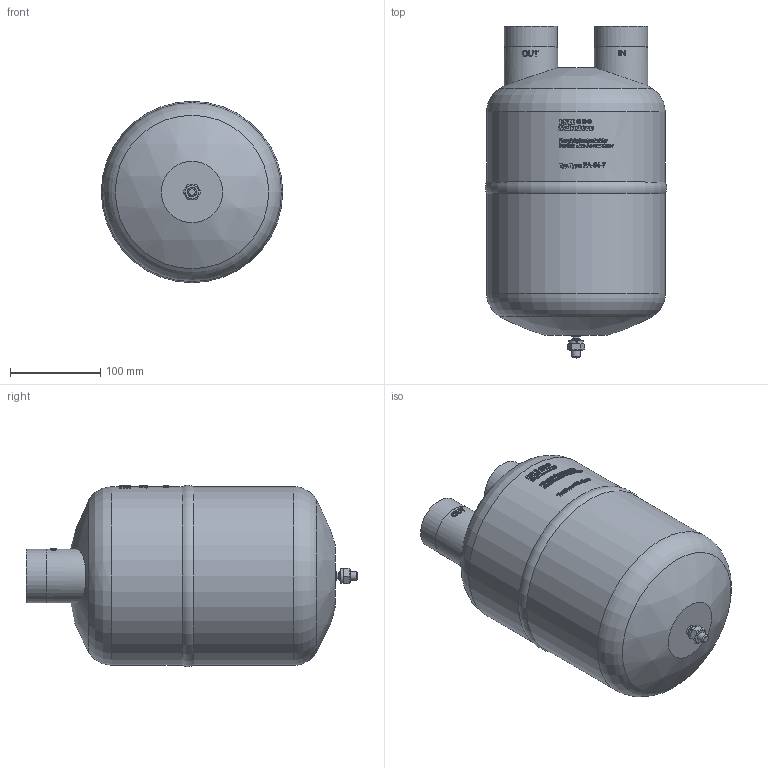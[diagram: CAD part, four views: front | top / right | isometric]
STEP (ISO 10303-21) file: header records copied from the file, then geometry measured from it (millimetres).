
FILE_DESCRIPTION(/* description */ (''),/* implementation_level */ '2;1');
FILE_NAME(/* name */ 'P:\FA\FA-54-7\FA-54-7.stp',/* time_stamp */ '2017-10-05T07:55:05+02:00',/* author */ ('neufeld'),/* organization */ (''),/* preprocessor_version */ 'ST-DEVELOPER v16.1',/* originating_system */ 'Autodesk Inventor 2016',/* authorisation */ '');
FILE_SCHEMA (('AUTOMOTIVE_DESIGN { 1 0 10303 214 3 1 1 }'));
Length unit declared in the file: millimetre
Products named in the file (2): FA-54-7; FA-54-7_1
Assembly tree (1 placements, depth 2):
  FA-54-7_1
    FA-54-7
Bounding box: 201.07 x 368 x 201.07 mm (x, y, z)
Volume: 8376125.8 mm3; surface area: 245500.7 mm2
Topology: 1 solids, 1 shells, 1249 faces, 3388 edges, 2255 vertices
Faces by surface type: plane 687, bspline 429, cylinder 121, cone 6, torus 4, sphere 2
Full cylindrical faces by diameter (mm): 7 x1, 10 x2, 54.3 x2, 59 x2, 59.5 x2, 198 x2
Entity records: 48535 total; most frequent: CARTESIAN_POINT 19224, ORIENTED_EDGE 6722, DIRECTION 5014, EDGE_CURVE 3361, VERTEX_POINT 2249, AXIS2_PLACEMENT_3D 1704, LINE 1606, VECTOR 1606
